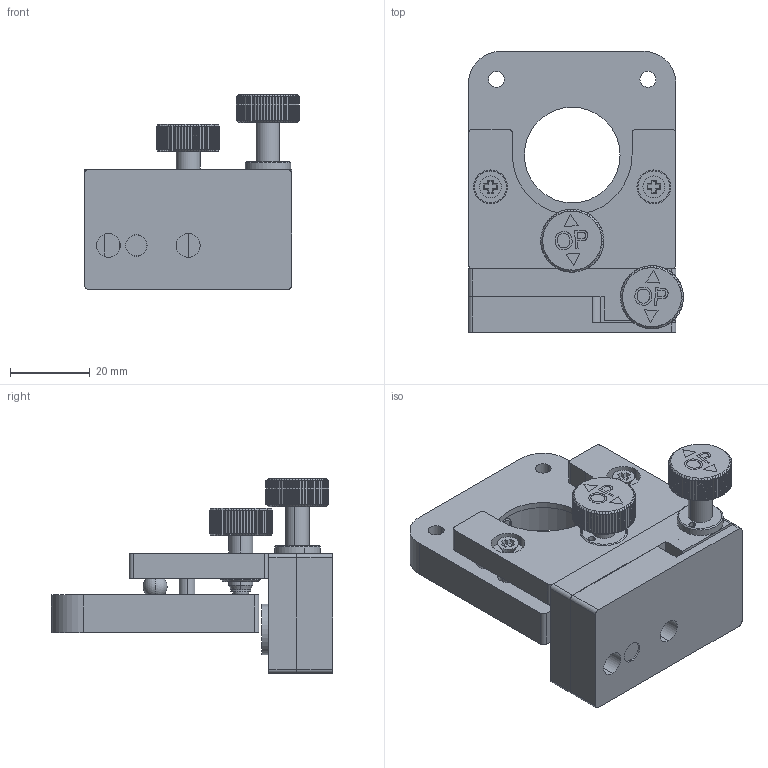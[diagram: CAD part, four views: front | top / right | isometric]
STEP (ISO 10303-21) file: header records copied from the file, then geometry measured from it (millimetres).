
FILE_DESCRIPTION (( 'STEP AP203' ), '1' );
FILE_NAME ('CGM-1.STEP', '2016-11-29T06:23:40', ( '' ), ( '' ), 'SwSTEP 2.0', 'SolidWorks 2012', '' );
FILE_SCHEMA (( 'CONFIG_CONTROL_DESIGN' ));
Length unit declared in the file: millimetre
Products named in the file (1): CGM-1
Bounding box: 53.9 x 70.5 x 48.8 mm (x, y, z)
Volume: 52927.8 mm3; surface area: 32407.1 mm2
Topology: 26 solids, 26 shells, 1105 faces, 2802 edges, 1819 vertices
Faces by surface type: plane 566, cylinder 400, cone 85, bspline 38, sphere 12, torus 4
Entity records: 35434 total; most frequent: CARTESIAN_POINT 9303, ORIENTED_EDGE 5528, DIRECTION 5191, EDGE_CURVE 2764, AXIS2_PLACEMENT_3D 1959, VERTEX_POINT 1809, VECTOR 1273, LINE 1273
